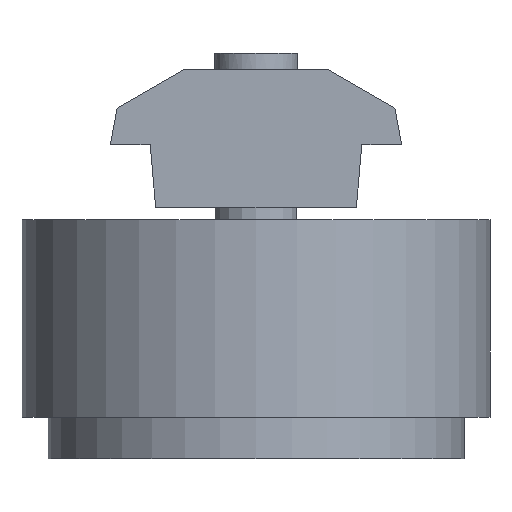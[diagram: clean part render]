
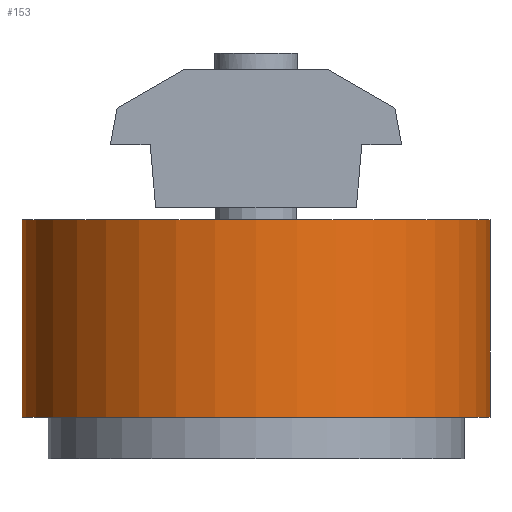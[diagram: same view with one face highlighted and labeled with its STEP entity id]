
A CAD part, front view. The second image highlights one B-rep face of the part: STEP entity #153.
In plain terms, the highlighted cylindrical face has radius 11.25 mm (diameter 22.5 mm), a full revolution.
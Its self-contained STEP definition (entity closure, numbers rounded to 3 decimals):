
#153=ADVANCED_FACE('',(#281,#282),#283,.T.);
#281=FACE_OUTER_BOUND('',#413,.T.);
#282=FACE_OUTER_BOUND('',#414,.T.);
#283=CYLINDRICAL_SURFACE('',#415,11.25);
#413=EDGE_LOOP('',(#575));
#414=EDGE_LOOP('',(#576));
#415=AXIS2_PLACEMENT_3D('',#577,#578,#579);
#575=ORIENTED_EDGE('',*,*,#800,.F.);
#576=ORIENTED_EDGE('',*,*,#780,.T.);
#577=CARTESIAN_POINT('',(11.25,11.25,11.5));
#578=DIRECTION('',(0.0,0.0,-1.0));
#579=DIRECTION('',(-1.0,0.0,0.0));
#780=EDGE_CURVE('',#894,#894,#895,.T.);
#800=EDGE_CURVE('',#925,#925,#926,.T.);
#894=VERTEX_POINT('',#1050);
#895=CIRCLE('',#1051,11.25);
#925=VERTEX_POINT('',#1091);
#926=CIRCLE('',#1092,11.25);
#1050=CARTESIAN_POINT('',(22.5,11.25,2.0));
#1051=AXIS2_PLACEMENT_3D('',#1217,#1218,#1219);
#1091=CARTESIAN_POINT('',(22.5,11.25,11.5));
#1092=AXIS2_PLACEMENT_3D('',#1239,#1240,#1241);
#1217=CARTESIAN_POINT('',(11.25,11.25,2.0));
#1218=DIRECTION('',(0.0,0.0,1.0));
#1219=DIRECTION('',(1.0,0.0,0.0));
#1239=CARTESIAN_POINT('',(11.25,11.25,11.5));
#1240=DIRECTION('',(0.0,0.0,1.0));
#1241=DIRECTION('',(1.0,0.0,0.0));
